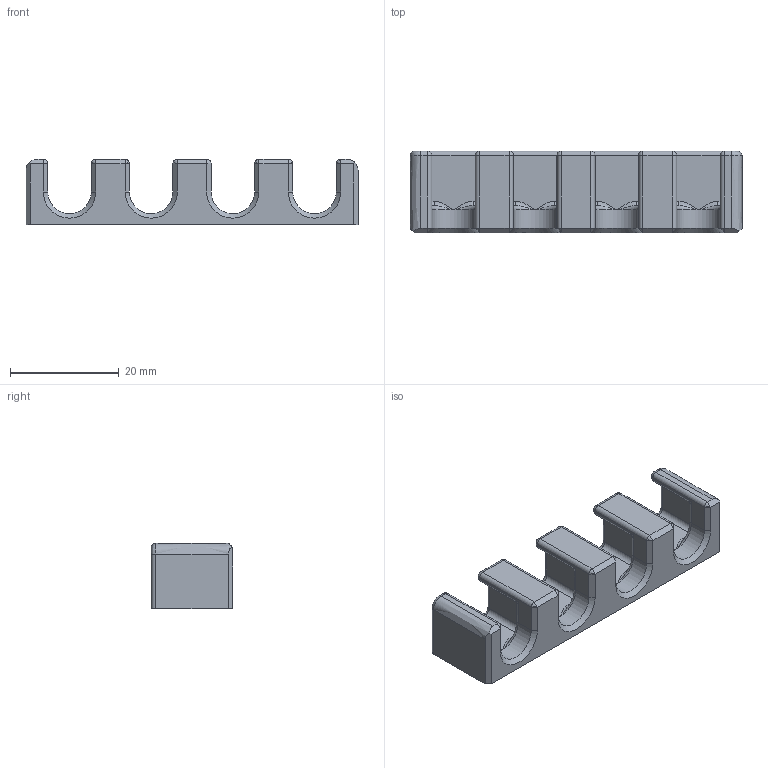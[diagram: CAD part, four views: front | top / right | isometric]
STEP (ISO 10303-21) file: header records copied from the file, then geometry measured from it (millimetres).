
FILE_DESCRIPTION(/* description */ (''),/* implementation_level */ '2;1');
FILE_NAME(/* name */ 'USB Cable Mount v4.step',/* time_stamp */ '2023-01-18T17:08:45+01:00',/* author */ (''),/* organization */ (''),/* preprocessor_version */ 'ST-DEVELOPER v19.2',/* originating_system */ 'Autodesk Translation Framework v11.17.0.187',/* authorisation */ '');
FILE_SCHEMA (('AUTOMOTIVE_DESIGN { 1 0 10303 214 3 1 1 }'));
Length unit declared in the file: millimetre
Products named in the file (1): USB Cable Mount
Bounding box: 61 x 15 x 12 mm (x, y, z)
Volume: 4629.7 mm3; surface area: 4237.3 mm2
Topology: 1 solids, 1 shells, 260 faces, 598 edges, 316 vertices
Faces by surface type: cylinder 103, plane 69, bspline 36, torus 24, sphere 16, cone 12
Entity records: 7843 total; most frequent: CARTESIAN_POINT 2181, DIRECTION 1234, ORIENTED_EDGE 1148, EDGE_CURVE 574, AXIS2_PLACEMENT_3D 479, VERTEX_POINT 316, LINE 276, VECTOR 276
